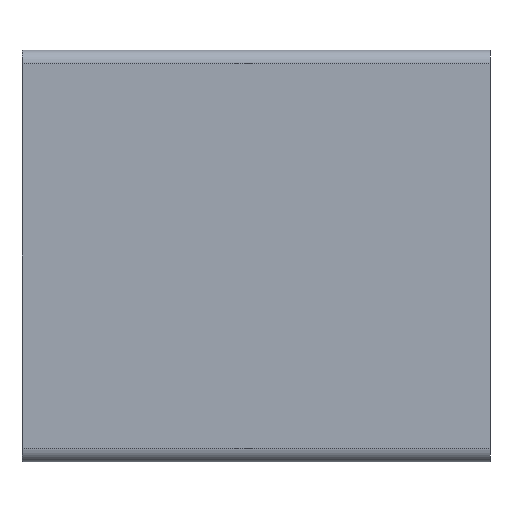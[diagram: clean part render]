
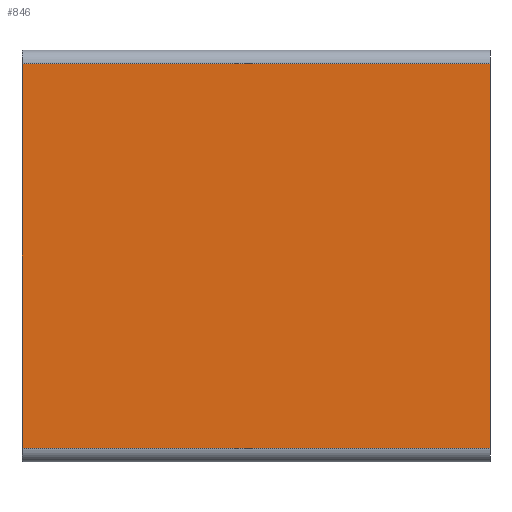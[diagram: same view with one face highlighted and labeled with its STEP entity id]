
A CAD part, left-side view. The second image highlights one B-rep face of the part: STEP entity #846.
In plain terms, the highlighted planar face has unit normal (-1, 0, 0).
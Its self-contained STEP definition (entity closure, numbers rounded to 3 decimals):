
#846 = ADVANCED_FACE( '', ( #1895 ), #1896, .T. );
#1895 = FACE_OUTER_BOUND( '', #3126, .T. );
#1896 = PLANE( '', #3127 );
#3126 = EDGE_LOOP( '', ( #6175, #6176, #6177, #6178 ) );
#3127 = AXIS2_PLACEMENT_3D( '', #6179, #6180, #6181 );
#6175 = ORIENTED_EDGE( '', *, *, #7826, .F. );
#6176 = ORIENTED_EDGE( '', *, *, #9033, .F. );
#6177 = ORIENTED_EDGE( '', *, *, #8595, .T. );
#6178 = ORIENTED_EDGE( '', *, *, #9034, .T. );
#6179 = CARTESIAN_POINT( '', ( -22.5, 102.327, 42. ) );
#6180 = DIRECTION( '', ( -1., 0., 0. ) );
#6181 = DIRECTION( '', ( 0., 0., 1. ) );
#7826 = EDGE_CURVE( '', #9523, #9525, #9526, .T. );
#8595 = EDGE_CURVE( '', #10866, #10864, #10867, .T. );
#9033 = EDGE_CURVE( '', #10866, #9523, #11435, .T. );
#9034 = EDGE_CURVE( '', #10864, #9525, #11436, .T. );
#9523 = VERTEX_POINT( '', #11987 );
#9525 = VERTEX_POINT( '', #11989 );
#9526 = LINE( '', #11990, #11991 );
#10864 = VERTEX_POINT( '', #13688 );
#10866 = VERTEX_POINT( '', #13690 );
#10867 = LINE( '', #13691, #13692 );
#11435 = LINE( '', #14465, #14466 );
#11436 = LINE( '', #14467, #14468 );
#11987 = CARTESIAN_POINT( '', ( -22.5, 0., 42. ) );
#11989 = CARTESIAN_POINT( '', ( -22.5, 0., -42. ) );
#11990 = CARTESIAN_POINT( '', ( -22.5, 0., 42. ) );
#11991 = VECTOR( '', #14999, 1000. );
#13688 = CARTESIAN_POINT( '', ( -22.5, 102.327, -42. ) );
#13690 = CARTESIAN_POINT( '', ( -22.5, 102.327, 42. ) );
#13691 = CARTESIAN_POINT( '', ( -22.5, 102.327, 42. ) );
#13692 = VECTOR( '', #16355, 1000. );
#14465 = CARTESIAN_POINT( '', ( -22.5, 102.327, 42. ) );
#14466 = VECTOR( '', #16912, 1000. );
#14467 = CARTESIAN_POINT( '', ( -22.5, 102.327, -42. ) );
#14468 = VECTOR( '', #16913, 1000. );
#14999 = DIRECTION( '', ( 0., 0., -1. ) );
#16355 = DIRECTION( '', ( 0., 0., -1. ) );
#16912 = DIRECTION( '', ( 0., -1., 0. ) );
#16913 = DIRECTION( '', ( 0., -1., 0. ) );
